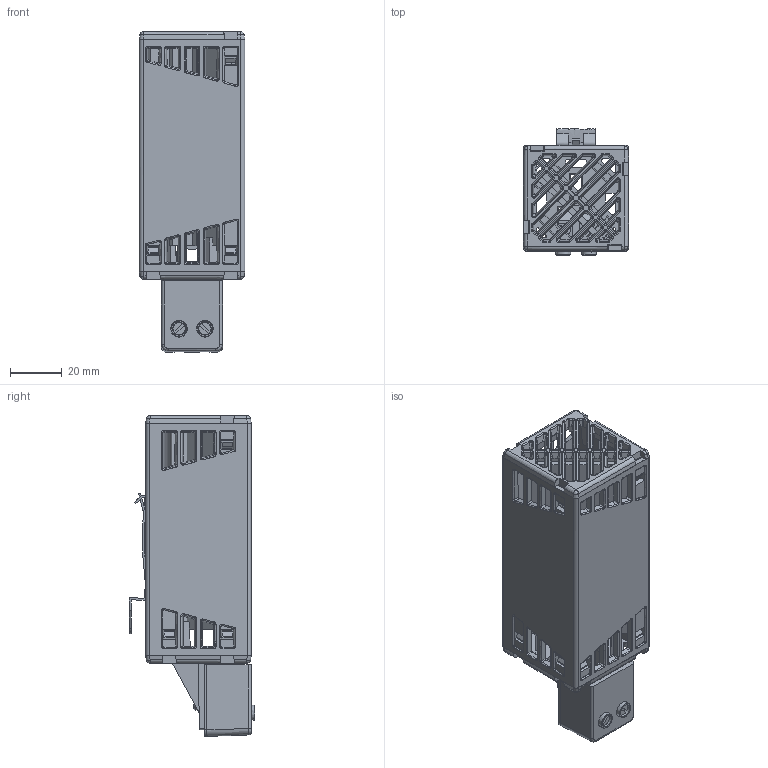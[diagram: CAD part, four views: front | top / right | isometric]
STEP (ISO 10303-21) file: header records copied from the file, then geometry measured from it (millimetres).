
FILE_DESCRIPTION(/* description */ (''),/* implementation_level */ '2;1');
FILE_NAME(/* name */ 'STHT25~1',/* time_stamp */ '2023-01-24T13:53:47+01:00',/* author */ (''),/* organization */ (''),/* preprocessor_version */ 'ST-DEVELOPER v16.5',/* originating_system */ '',/* authorisation */ '');
FILE_SCHEMA (('AUTOMOTIVE_DESIGN'));
Products named in the file (3): Document; Blocco 02; Blocco 01
Assembly tree (2 placements, depth 2):
  Document
    Blocco 02
    Blocco 01
Bounding box: 41 x 48.79 x 124.4 mm (x, y, z)
Volume: 39052.7 mm3; surface area: 83483.6 mm2
Topology: 5 solids, 772 shells, 1674 faces, 6085 edges, 5193 vertices
Faces by surface type: bspline 1211, plane 463
Entity records: 85253 total; most frequent: CARTESIAN_POINT 46059, ORIENTED_EDGE 8427, EDGE_CURVE 6081, VERTEX_POINT 5193, B_SPLINE_CURVE_WITH_KNOTS 3843, EDGE_LOOP 1834, ADVANCED_FACE 1674, FACE_OUTER_BOUND 1674
